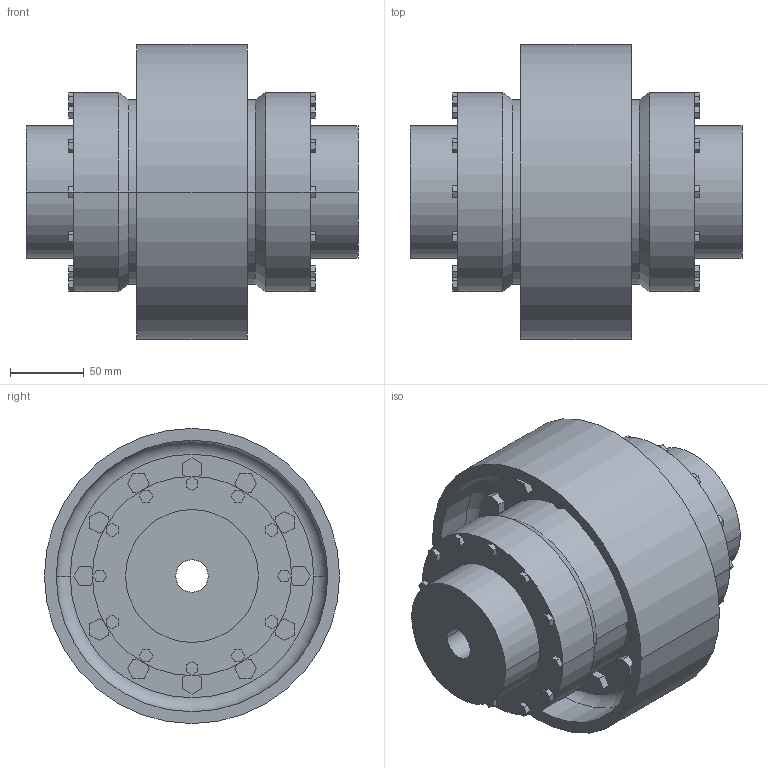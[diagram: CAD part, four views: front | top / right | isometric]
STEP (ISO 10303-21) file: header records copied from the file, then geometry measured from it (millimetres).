
FILE_DESCRIPTION((''),'2;1');
FILE_NAME('A19735600-0_ASM','2019-05-23T',('AB_Roschiwal'),('RENK AG'),'PRO/ENGINEER BY PARAMETRIC TECHNOLOGY CORPORATION, 2015440','PRO/ENGINEER BY PARAMETRIC TECHNOLOGY CORPORATION, 2015440','');
FILE_SCHEMA(('CONFIG_CONTROL_DESIGN'));
Length unit declared in the file: millimetre
Products named in the file (4): SBKD60_GEHAEUSE; SBKD60_NABE; SBKD60_BREMSSCHEIBE; A19735600-0_ASM
Assembly tree (4 placements, depth 2):
  A19735600-0_ASM
    SBKD60_GEHAEUSE
    SBKD60_NABE  x2
    SBKD60_BREMSSCHEIBE
Bounding box: 225 x 200 x 200 mm (x, y, z)
Volume: 2342091.4 mm3; surface area: 415745.2 mm2
Topology: 4 solids, 4 shells, 474 faces, 1164 edges, 772 vertices
Faces by surface type: plane 370, cylinder 96, cone 4, torus 4
Entity records: 13708 total; most frequent: CARTESIAN_POINT 2366, ORIENTED_EDGE 2280, DIRECTION 2264, EDGE_CURVE 1140, VECTOR 956, LINE 956, VERTEX_POINT 756, AXIS2_PLACEMENT_3D 654
